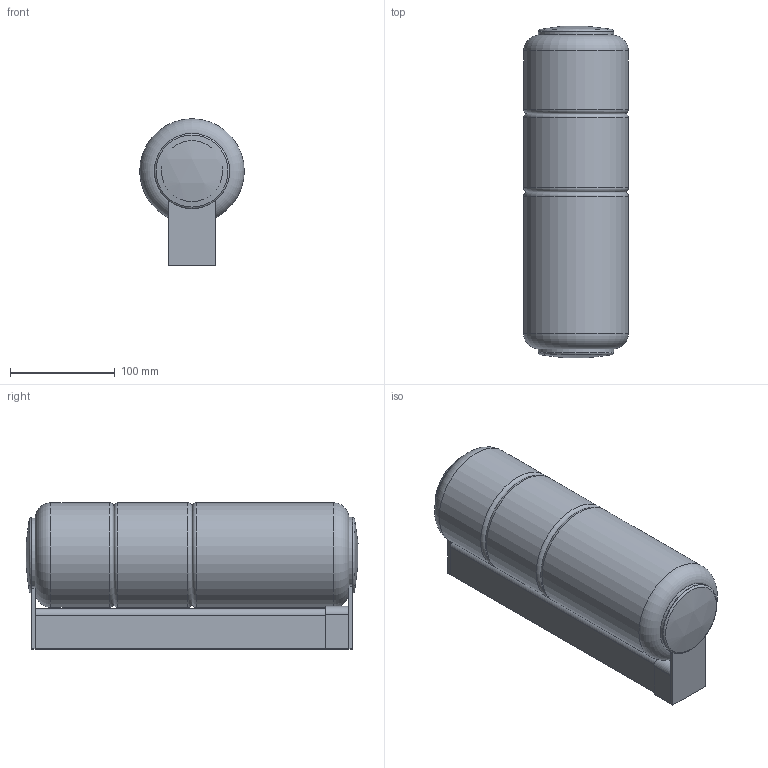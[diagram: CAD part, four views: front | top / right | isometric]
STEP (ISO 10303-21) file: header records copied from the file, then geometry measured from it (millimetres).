
FILE_DESCRIPTION(/* description */ ('STACKING P/PL 30 CE'),/* implementation_level */ '2;1');
FILE_NAME(/* name */ '343Z0LD0-0CEPD - STACKING P-PL 30 EMEA.stp',/* time_stamp */ '2026-01-28T11:27:27+01:00',/* author */ ('marco.prandina'),/* organization */ (''),/* preprocessor_version */ 'ST-DEVELOPER v20.1',/* originating_system */ 'Autodesk Inventor 2026',/* authorisation */ '');
FILE_SCHEMA (('AUTOMOTIVE_DESIGN { 1 0 10303 214 3 1 1 }'));
Length unit declared in the file: millimetre
Products named in the file (48): 343Z0LD0-1CEPD; 343C667; 343C439; 343C669; GRANO M6X10 ISO 4026; 343C668; 343C635-A; 343C671; VITE TBEI M4X8 ISO 7380 ZN; 343C672; 343C657; 343C659-A; K017; VITE M4x8 SVASATA CON INTAGLIO A CROCE A4; DADO M4 A3 - DIN 934; RONDELLA DENTELLATA ESTERNA M4; K016; K015; W027-BIA; VITE AUTOFIL. TSP M3,5X19 ZN DIN 7982C; X0023-020; 00343C501; 00343C406-A; C010; K001; W029; W031; 343C670; 00343C397; 00343C404; 00343C398; 00343C407-A; B006; VITE TCB M4X8 UNI7687 ZB; VITE TCB M3X8 UNI7687 ZB; VITE TSP M4X6 ZN; VITE AUTOFIL. TB TORX ISO 14585-ST4,2-38-C; 00343V005-A; 00343V002-A; 00343V001-A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
Assembly tree (82 placements, depth 3):
  343Z0LD0-1CEPD
    343C667
    343C439
    343C669
    GRANO M6X10 ISO 4026
    343C668
    343C635-A
    343C671
    DADO M4 A3 - DIN 934  x3
    VITE TBEI M4X8 ISO 7380 ZN  x2
    RONDELLA DENTELLATA ESTERNA M4  x3
    343C672
    343C657
    343C659-A
    X0023-020  x2
    K017
    VITE M4x8 SVASATA CON INTAGLIO A CROCE A4
    W027-BIA  x2
    K016
    K015
    VITE AUTOFIL. TSP M3,5X19 ZN DIN 7982C  x2
    00343C501
      00343C406-A
      C010  x25
      K001
      W029
      W031
    343C670
    00343C397
    00343C404
    00343C398
    00343C407-A
    B006
    VITE TCB M4X8 UNI7687 ZB
    VITE TCB M3X8 UNI7687 ZB  x3
    VITE TSP M4X6 ZN
    VITE AUTOFIL. TB TORX ISO 14585-ST4,2-38-C  x2
    00343V005-A
    00343V002-A
    00343V001-A
    00343C410
    DADO M3 S2 M.00.06.19 UNI5588 DIN934
    RONDELLA DENTELLATA ESTERNA M3 UNI8842A
    K002
    A035
    W042-TRS
    Z016-A
    Z016-B
Bounding box: 100 x 317.41 x 140 mm (x, y, z)
Volume: 747949.4 mm3; surface area: 682391 mm2
Topology: 82 solids, 122 shells, 5632 faces, 14989 edges, 9860 vertices
Faces by surface type: plane 3727, cylinder 1064, bspline 394, cone 367, torus 67, sphere 13
Full cylindrical faces by diameter (mm): 0.88 x2, 1.02 x2, 1.9 x1, 2.459 x8, 2.5 x36, 2.75 x3, 2.9 x2, 3 x10, 3.2 x4, 3.242 x2, 3.302 x1, 3.4 x3, 3.459 x3, 3.5 x6, 3.571 x1, 3.65 x1, 3.7 x1, 3.95 x1, 4 x7, 4.2 x3, 4.3 x4, 4.5 x10, 4.917 x1, 5 x7, 5.2 x2, 5.6 x4, 5.8 x1, 6 x1, 6.5 x2, 6.8 x2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
Entity records: 134962 total; most frequent: CARTESIAN_POINT 31910, ORIENTED_EDGE 21210, DIRECTION 19215, EDGE_CURVE 10605, LINE 7151, VECTOR 7151, VERTEX_POINT 6953, AXIS2_PLACEMENT_3D 6032
